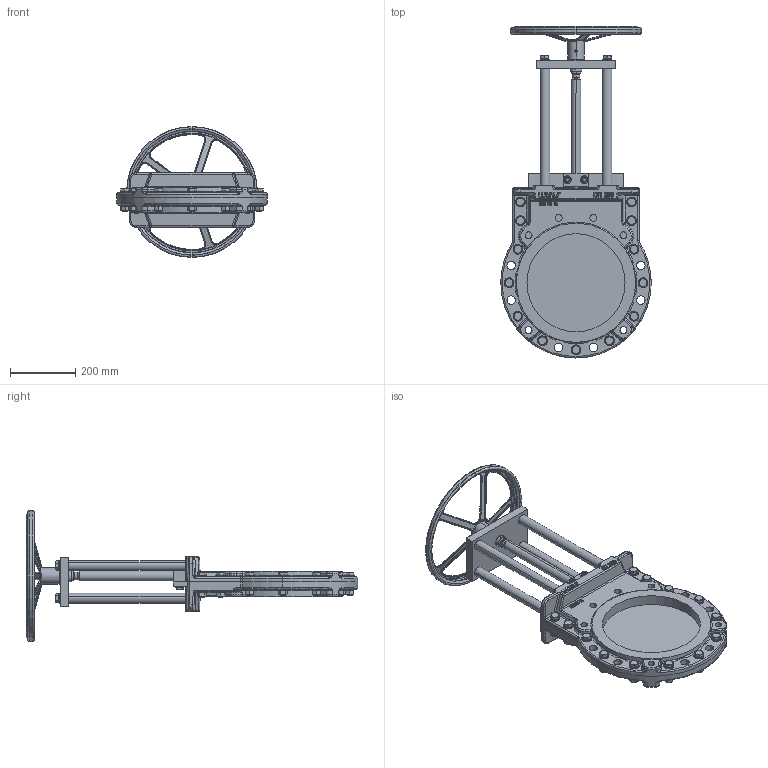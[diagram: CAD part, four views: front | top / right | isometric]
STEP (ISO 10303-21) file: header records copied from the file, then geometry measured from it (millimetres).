
FILE_DESCRIPTION (( 'STEP AP214' ), '1' );
FILE_NAME ('MGA DN 0300 PN16 (DH 400).STEP', '2015-09-23T08:05:15', ( 'admin' ), ( 'Hewlett-Packard Company' ), 'SwSTEP 2.0', 'SolidWorks 2013', '' );
FILE_SCHEMA (( 'AUTOMOTIVE_DESIGN' ));
Length unit declared in the file: millimetre
Products named in the file (1): MGA DN 0300 PN16 (DH 400)
Bounding box: 460 x 1014.5 x 400 mm (x, y, z)
Volume: 12824617.4 mm3; surface area: 1417164.2 mm2
Topology: 72 solids, 82 shells, 2471 faces, 5727 edges, 3477 vertices
Faces by surface type: plane 896, cylinder 632, cone 479, bspline 292, torus 152, sphere 20
Entity records: 116798 total; most frequent: CARTESIAN_POINT 34722, ORIENTED_EDGE 11390, DIRECTION 10906, EDGE_CURVE 5695, AXIS2_PLACEMENT_3D 4337, VERTEX_POINT 3477, EDGE_LOOP 2740, UNCERTAINTY_MEASURE_WITH_UNIT 2543
